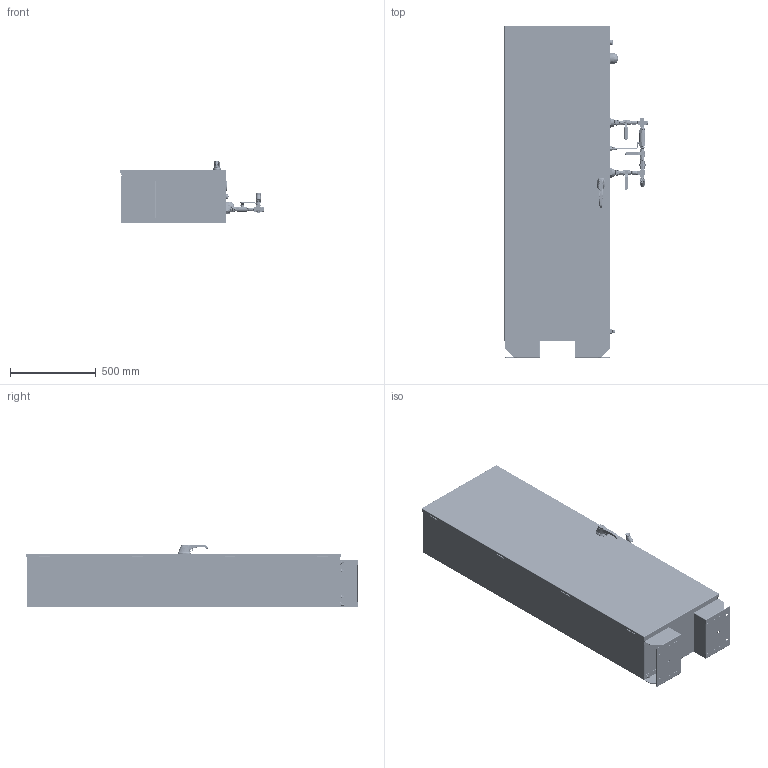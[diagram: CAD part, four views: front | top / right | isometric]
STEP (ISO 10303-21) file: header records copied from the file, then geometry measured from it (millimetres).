
FILE_DESCRIPTION(/* description */ ('','CAx-IF Rec.Pracs.---Representation and Presentation of Product Manufacturing Information (PMI)---4.0---2014-10-13'),/* implementation_level */ '2;1');
FILE_NAME(/* name */ 'C:\Vault Local\Designs\CAD\Manufacturing\ECS Products\PGEN Nitrogen Generators\PGEN-60\Export\PGEN-60.stp',/* time_stamp */ '2020-12-16T11:29:31-06:00',/* author */ ('myoung'),/* organization */ (''),/* preprocessor_version */ 'ST-DEVELOPER v18.1',/* originating_system */ 'Autodesk Inventor 2020',/* authorisation */ '');
FILE_SCHEMA (('AP242_MANAGED_MODEL_BASED_3D_ENGINEERING_MIM_LF { 1 0 10303 442 1 1 4 }'));
Products named in the file (1): PGEN-60_Shrinkwrap_1
Bounding box: 842.15 x 1937.03 x 367.61 mm (x, y, z)
Volume: 11702734.2 mm3; surface area: 10728241.3 mm2
Topology: 12 solids, 12 shells, 4344 faces, 12434 edges, 8160 vertices
Faces by surface type: plane 1637, cylinder 1098, cone 1048, bspline 457, torus 76, sphere 28
Full cylindrical faces by diameter (mm): 1.905 x2, 2 x2, 2.02 x21, 2.286 x8, 2.54 x4, 2.845 x15, 2.997 x1, 3.175 x5, 3.5 x3, 3.8 x2, 3.969 x2, 4.1 x3, 5 x1, 5.105 x4, 5.156 x4, 5.563 x2, 6.35 x9, 6.553 x2, 6.607 x1, 6.909 x2, 6.945 x1, 7.057 x28, 7.137 x4, 7.772 x1, 7.785 x25, 7.836 x6, 7.938 x4, 7.952 x1, 8 x2, 8.458 x8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
Entity records: 398330 total; most frequent: CARTESIAN_POINT 285885, ORIENTED_EDGE 24808, DIRECTION 20259, EDGE_CURVE 12404, VERTEX_POINT 8160, AXIS2_PLACEMENT_3D 7602, LINE 5055, VECTOR 5055
